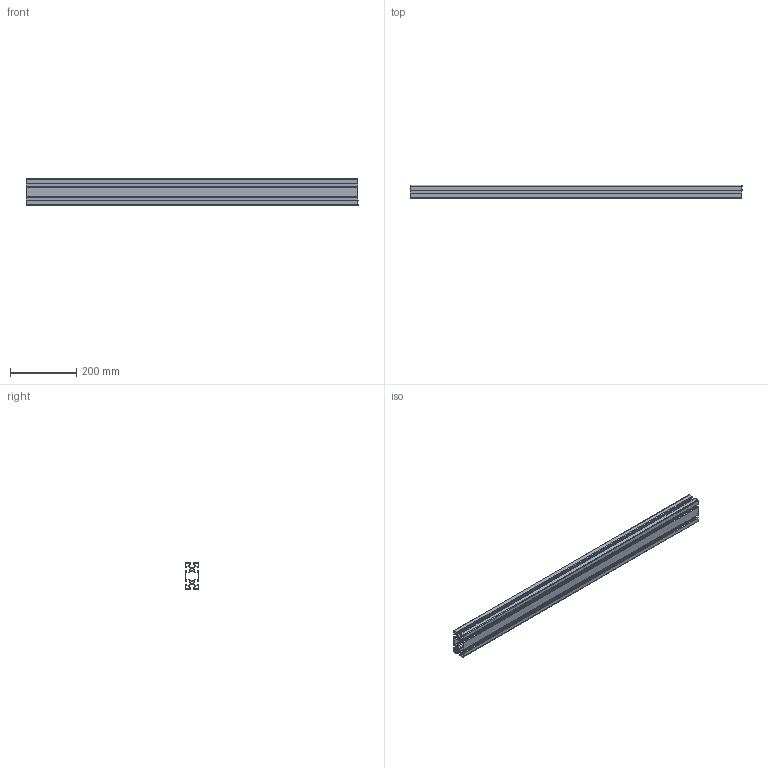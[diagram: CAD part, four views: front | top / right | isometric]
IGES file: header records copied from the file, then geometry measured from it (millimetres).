
Start section: SolidWorks IGES file using analytic representation for surfaces
Bounding box: 1000 x 40 x 80 mm (x, y, z)
Surface area: 814892.4 mm2 (no closed solid volume)
Topology: 0 solids, 0 shells, 272 faces, 2828 edges, 2828 vertices
Faces by surface type: revolution 154, bspline 118
